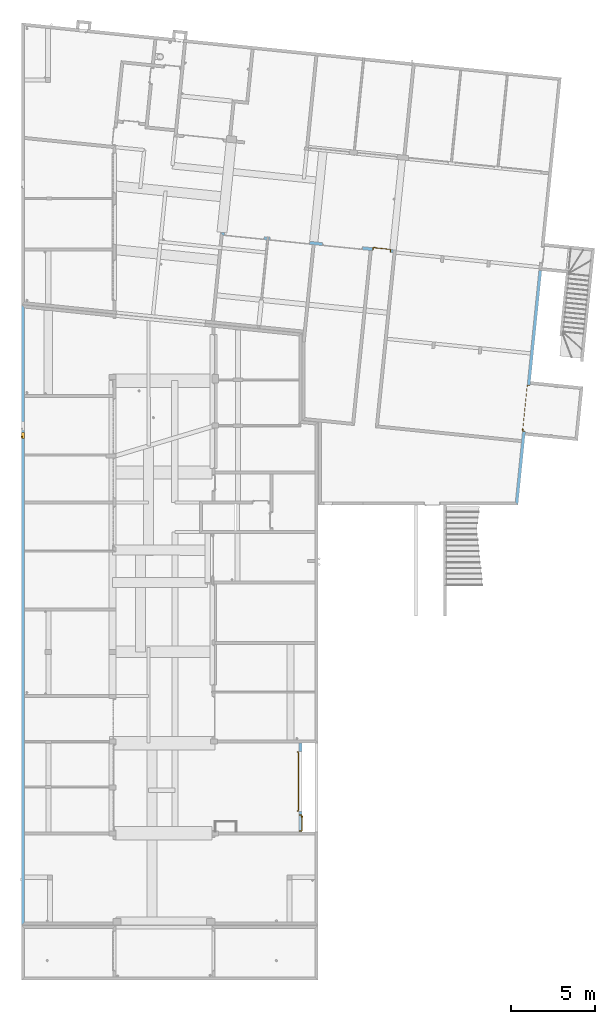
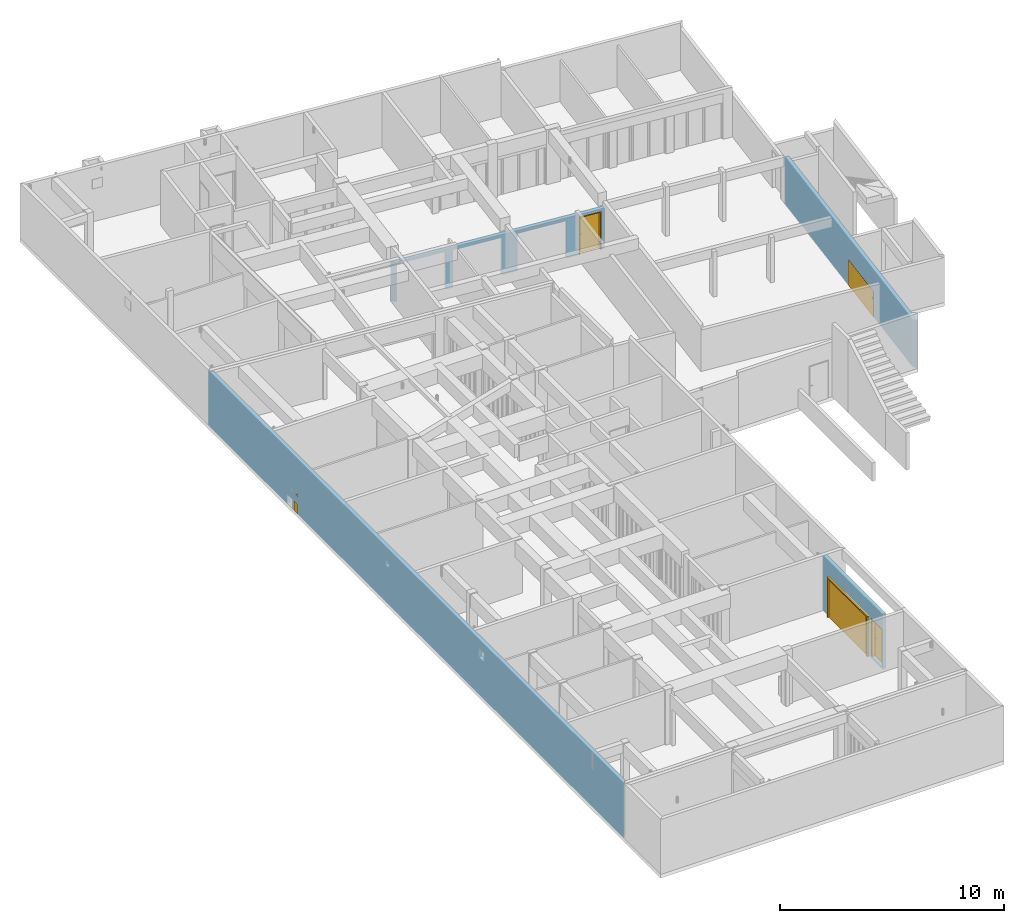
# One storey, part 33 of 41: 5 doors, 11 openings, plus 4 elements that do not belong to this part.
"""IFC2X3 building model written with IfcOpenShell, lengths in millimetres."""

from ifc_helpers import new_model, entity, si_unit, converted_unit, derived_unit, money_unit, direction, frame, origin_with_axes, origin_2d_with_axis, place, context, subcontext, project, spatial, polyline, rectangle, outline, extrude, faceted_brep, material, layer, layer_set, layer_usage, type_object, element, fill, save


model = new_model("IFC2X3")

# Units and contexts
model_context = context("Model", 3, precision=0.01, world=origin_with_axes(), true_north=direction((0.0, 1.0)))
body_context = subcontext(model_context, "Body", "Model", "MODEL_VIEW")
ifc_project = project(units=[si_unit("LENGTHUNIT", "METRE", prefix="MILLI"), si_unit("AREAUNIT", "SQUARE_METRE"), si_unit("VOLUMEUNIT", "CUBIC_METRE"), converted_unit("PLANEANGLEUNIT", "DEGREE", entity("IfcPlaneAngleMeasure", 0.0174532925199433), si_unit("PLANEANGLEUNIT", "RADIAN"), dimensions=[0, 0, 0, 0, 0, 0, 0]), money_unit("USD"), converted_unit("TIMEUNIT", "Year", entity("IfcTimeMeasure", 31557600.0), si_unit("TIMEUNIT", "SECOND"), dimensions=[0, 0, 1, 0, 0, 0, 0]), si_unit("MASSUNIT", "GRAM", prefix="KILO"), si_unit("THERMODYNAMICTEMPERATUREUNIT", "DEGREE_CELSIUS"), si_unit("LUMINOUSINTENSITYUNIT", "LUMEN"), si_unit("ENERGYUNIT", "JOULE", prefix="MEGA"), derived_unit("THERMALCONDUCTANCEUNIT", [(si_unit("POWERUNIT", "WATT"), 1), (si_unit("LENGTHUNIT", "METRE"), -1), (si_unit("THERMODYNAMICTEMPERATUREUNIT", "KELVIN"), -1)]), derived_unit("SPECIFICHEATCAPACITYUNIT", [(si_unit("ENERGYUNIT", "JOULE"), 1), (si_unit("MASSUNIT", "GRAM", prefix="KILO"), -1), (si_unit("THERMODYNAMICTEMPERATUREUNIT", "KELVIN"), -1)]), derived_unit("MASSDENSITYUNIT", [(si_unit("MASSUNIT", "GRAM", prefix="KILO"), 1), (si_unit("VOLUMEUNIT", "CUBIC_METRE"), -1)])], contexts=[model_context])

# Site, building, storey
site_placement = place(None, origin_with_axes())
site = spatial("IfcSite", under=ifc_project, at=site_placement, Name="Site", CompositionType="ELEMENT")
building_placement = place(site_placement, origin_with_axes())
building = spatial("IfcBuilding", under=site, at=building_placement, Name="Bâtiment", CompositionType="ELEMENT")
storey_placement = place(building_placement, origin_with_axes())
storey = spatial("IfcBuildingStorey", under=building, at=storey_placement, Name="sousol", CompositionType="ELEMENT", Elevation=0.0)

# Wall, openings, door
ifc_material = material(Name="Parpaing 314940890")
ifc_layer = layer(ifc_material, 180.0, ventilated="UNKNOWN")
ifc_layer_set = layer_set([ifc_layer], Name="Beton  18 0170347028")
ifc_layer_usage_1 = layer_usage(ifc_layer_set, "AXIS2", "POSITIVE", 0.0)
wall_type = type_object("IfcWallType", Name="Beton  18 0170347028 180", PredefinedType="NOTDEFINED")
wall_1_placement = place(storey_placement, frame((2216634.23334483, -620890.3900603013, 0.0), z_axis=(0.0, 0.0, 1.0), x_axis=(0.0, -1.0, 0.0)))
wall_1 = element("IfcWallStandardCase", 1, at=wall_1_placement, inside=storey, type_object=wall_type, material=ifc_layer_usage_1, Name="Mur-132", context=body_context, shape_type="SweptSolid", body=[
    extrude(outline(polyline([(-180.9270809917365, 0.0), (36927.93301666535, 0.0), (36747.93301666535, 179.99999999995), (18.29231084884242, 179.99999999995), (-180.9270809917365, 0.0)])), origin_with_axes(), (0.0, 0.0, 1.0), 3000.0),
])
opening_1_placement = place(wall_1_placement, frame((15766.22078603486, 2.273736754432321e-10, 2000.000000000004), z_axis=(0.0, 0.0, 1.0), x_axis=(1.0, 0.0, 0.0)))
element("IfcOpeningElement", 2, at=opening_1_placement, cuts=wall_1, Name="Por-277", context=body_context, shape_type="SweptSolid", body=[
    extrude(rectangle(XDim=300.0000000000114, YDim=299.9999999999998, at=origin_2d_with_axis()), frame((0.0, 0.0, 149.9999999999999), z_axis=(0.0, 1.0, 0.0), x_axis=(1.0, 0.0, 0.0)), (0.0, 0.0, -1.0), 180.0),
    extrude(rectangle(XDim=300.0000000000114, YDim=299.9999999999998, at=origin_2d_with_axis()), frame((0.0, 0.0, 149.9999999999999), z_axis=(0.0, -1.0, 0.0), x_axis=(1.0, 0.0, 0.0)), (0.0, 0.0, -1.0), 180.0),
])
opening_2_placement = place(wall_1_placement, frame((24180.17555855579, 3.410605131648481e-10, 2000.000000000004), z_axis=(0.0, 0.0, 1.0), x_axis=(1.0, 0.0, 0.0)))
element("IfcOpeningElement", 3, at=opening_2_placement, cuts=wall_1, Name="Por-277", context=body_context, shape_type="SweptSolid", body=[
    extrude(rectangle(XDim=500.0, YDim=500.0, at=origin_2d_with_axis()), frame((0.0, -1.13686837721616e-10, 250.0), z_axis=(0.0, 1.0, 0.0), x_axis=(1.0, 0.0, 0.0)), (0.0, 0.0, -1.0), 180.0),
    extrude(rectangle(XDim=500.0, YDim=500.0, at=origin_2d_with_axis()), frame((0.0, -1.13686837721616e-10, 250.0), z_axis=(0.0, -1.0, 0.0), x_axis=(1.0, 0.0, 0.0)), (0.0, 0.0, -1.0), 180.0),
])
opening_3_placement = place(wall_1_placement, frame((7070.907217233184, 2.273736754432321e-10, 0.0), z_axis=(0.0, 0.0, 1.0), x_axis=(1.0, 0.0, 0.0)))
element("IfcOpeningElement", 4, at=opening_3_placement, cuts=wall_1, Name="Por-277", context=body_context, shape_type="SweptSolid", body=[
    extrude(rectangle(XDim=519.999999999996, YDim=509.999998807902, at=origin_2d_with_axis()), frame((0.0, 179.99999999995, 255.000000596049), z_axis=(0.0, -1.0, 0.0), x_axis=(-1.0, 0.0, 0.0)), (0.0, 0.0, 1.0), 360.0),
])
opening_4_placement = place(wall_1_placement, frame((7631.771342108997, 2.273736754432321e-10, 0.0), z_axis=(0.0, 0.0, 1.0), x_axis=(1.0, 0.0, 0.0)))
opening_4 = element("IfcOpeningElement", 5, at=opening_4_placement, cuts=wall_1, Name="Por-277", context=body_context, shape_type="SweptSolid", body=[
    extrude(rectangle(XDim=343.3422810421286, YDim=510.0, at=origin_2d_with_axis()), frame((1.406561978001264e-06, 179.99999999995, 255.0), z_axis=(0.0, -1.0, 0.0), x_axis=(-1.0, 0.0, 0.0)), (0.0, 0.0, 1.0), 360.0),
])
door_style_1 = type_object("IfcDoorStyle", Name="Porte_1v", ConstructionType="NOTDEFINED", OperationType="NOTDEFINED", ParameterTakesPrecedence=False, Sizeable=False)
door_1_placement = place(opening_4_placement, frame((161.67114192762, 2.273736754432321e-10, 0.0), z_axis=(0.0, 0.0, 1.0), x_axis=(-1.0, 0.0, 0.0)))
door_1 = element("IfcDoor", 6, at=door_1_placement, inside=storey, type_object=door_style_1, Name="Por-277", OverallHeight=500.0, OverallWidth=323.342, context=body_context, shape_type="Brep", body=[
    faceted_brep([(333.3422838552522, 0.0, 0.0), (323.3422838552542, 0.0, 0.0), (323.3422838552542, 0.0, 500.0), (0.0, 0.0, 500.0), (0.0, 0.0, 0.0), (-9.99999999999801, 0.0, 0.0), (-9.99999999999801, 0.0, 510.0), (333.3422838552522, 0.0, 510.0), (333.3422838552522, -179.99999999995, 0.0), (313.3422838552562, -179.99999999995, 0.0), (313.3422838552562, -14.99999999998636, 0.0), (323.3422838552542, -14.99999999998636, 0.0), (323.3422838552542, -14.99999999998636, 500.0), (0.0, -14.99999999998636, 500.0), (0.0, -14.99999999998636, 0.0), (9.99999999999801, -14.99999999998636, 0.0), (9.99999999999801, -179.99999999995, 0.0), (-9.99999999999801, -179.99999999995, 0.0), (-9.99999999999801, -179.99999999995, 510.0), (333.3422838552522, -179.99999999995, 510.0), (9.99999999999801, -179.99999999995, 490.0), (313.3422838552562, -179.99999999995, 490.0), (313.3422838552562, -14.99999999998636, 490.0), (9.99999999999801, -14.99999999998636, 490.0)], [[[0, 1, 2, 3, 4, 5, 6, 7]], [[0, 8, 9, 10, 11, 1]], [[1, 11, 12, 2]], [[2, 12, 13, 3]], [[3, 13, 14, 4]], [[5, 4, 14, 15, 16, 17]], [[18, 6, 5, 17]], [[19, 7, 6, 18]], [[8, 0, 7, 19]], [[9, 8, 19, 18, 17, 16, 20, 21]], [[10, 9, 21, 22]], [[11, 10, 22, 23, 15, 14, 13, 12]], [[23, 20, 16, 15]], [[22, 21, 20, 23]]]),
    faceted_brep([(64.99999999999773, -14.99999999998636, 900.0), (24.99999999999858, -14.99999999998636, 900.0), (24.99999999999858, -14.99999999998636, 1100.0), (64.99999999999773, -14.99999999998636, 1100.0), (64.99999999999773, -24.99999999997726, 900.0), (24.99999999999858, -24.99999999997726, 900.0), (24.99999999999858, -24.99999999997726, 1100.0), (64.99999999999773, -24.99999999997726, 1100.0)], [[[0, 1, 2, 3]], [[1, 0, 4, 5]], [[2, 1, 5, 6]], [[3, 2, 6, 7]], [[0, 3, 7, 4]], [[5, 4, 7, 6]]]),
    faceted_brep([(134.999999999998, -24.99999999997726, 1000.0), (34.99999999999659, -24.99999999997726, 1000.0), (34.99999999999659, -24.99999999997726, 1020.0), (134.999999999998, -24.99999999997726, 1020.0), (134.999999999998, -44.99999999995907, 1000.0), (34.99999999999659, -44.99999999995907, 1000.0), (34.99999999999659, -44.99999999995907, 1020.0), (134.999999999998, -44.99999999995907, 1020.0)], [[[0, 1, 2, 3]], [[1, 0, 4, 5]], [[2, 1, 5, 6]], [[3, 2, 6, 7]], [[0, 3, 7, 4]], [[5, 4, 7, 6]]]),
    faceted_brep([(64.99999999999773, 14.99999999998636, 900.0), (24.99999999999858, 14.99999999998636, 900.0), (24.99999999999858, 14.99999999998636, 1100.0), (64.99999999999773, 14.99999999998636, 1100.0), (64.99999999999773, 4.999999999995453, 900.0), (24.99999999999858, 4.999999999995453, 900.0), (24.99999999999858, 4.999999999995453, 1100.0), (64.99999999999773, 4.999999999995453, 1100.0)], [[[0, 1, 2, 3]], [[1, 0, 4, 5]], [[2, 1, 5, 6]], [[3, 2, 6, 7]], [[0, 3, 7, 4]], [[5, 4, 7, 6]]]),
    faceted_brep([(134.999999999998, 34.99999999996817, 1000.0), (34.99999999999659, 34.99999999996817, 1000.0), (34.99999999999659, 34.99999999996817, 1020.0), (134.999999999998, 34.99999999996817, 1020.0), (134.999999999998, 14.99999999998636, 1000.0), (34.99999999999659, 14.99999999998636, 1000.0), (34.99999999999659, 14.99999999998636, 1020.0), (134.999999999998, 14.99999999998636, 1020.0)], [[[0, 1, 2, 3]], [[1, 0, 4, 5]], [[2, 1, 5, 6]], [[3, 2, 6, 7]], [[0, 3, 7, 4]], [[5, 4, 7, 6]]]),
    faceted_brep([(0.0, 4.999999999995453, 0.0), (323.3422838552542, 4.999999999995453, 0.0), (323.3422838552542, -14.99999999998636, 0.0), (0.0, -14.99999999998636, 0.0), (0.0, 4.999999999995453, 500.0), (323.3422838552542, 4.999999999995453, 500.0), (323.3422838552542, -14.99999999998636, 500.0), (0.0, -14.99999999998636, 500.0)], [[[0, 1, 2, 3]], [[0, 4, 5, 1]], [[1, 5, 6, 2]], [[3, 2, 6, 7]], [[4, 0, 3, 7]], [[5, 4, 7, 6]]]),
])
fill(opening_4, door_1)

ifc_layer_usage_2 = layer_usage(ifc_layer_set, "AXIS2", "POSITIVE", 0.0)
wall_2_placement = place(storey_placement, frame((2239044.524593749, -617438.4547941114, 0.0), z_axis=(0.0, 0.0, 1.0), x_axis=(-0.9948759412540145, 0.1011032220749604, 0.0)))
wall_2 = element("IfcWallStandardCase", 7, at=wall_2_placement, inside=storey, type_object=wall_type, material=ifc_layer_usage_2, Name="Mur-132", context=body_context, shape_type="SweptSolid", body=[
    extrude(outline(polyline([(179.9999999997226, 0.0), (10573.12216969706, 0.0), (10393.12216969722, 179.9999999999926), (179.9999999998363, 179.9999999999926), (179.9999999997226, 0.0)])), origin_with_axes(), (0.0, 0.0, 1.0), 2200.0),
])
opening_5_placement = place(wall_2_placement, frame((6397.227876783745, 0.0, 0.0), z_axis=(0.0, 0.0, 1.0), x_axis=(1.0, 0.0, 0.0)))
element("IfcOpeningElement", 8, at=opening_5_placement, cuts=wall_2, Name="Por-296", context=body_context, shape_type="SweptSolid", body=[
    extrude(rectangle(XDim=2400.000000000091, YDim=2050.0, at=origin_2d_with_axis()), frame((0.0, 180.0000000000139, 1025.0), z_axis=(0.0, -1.0, 0.0), x_axis=(1.0, 0.0, 0.0)), (0.0, 0.0, -1.0), 180.0),
    extrude(rectangle(XDim=2400.000000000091, YDim=2050.0, at=origin_2d_with_axis()), frame((0.0, 179.9999999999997, 1025.0), z_axis=(0.0, 1.0, 0.0), x_axis=(1.0, 0.0, 0.0)), (0.0, 0.0, -1.0), 180.0),
])
opening_6_placement = place(wall_2_placement, frame((9134.602929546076, 0.0, 0.0), z_axis=(0.0, 0.0, 1.0), x_axis=(1.0, 0.0, 0.0)))
element("IfcOpeningElement", 9, at=opening_6_placement, cuts=wall_2, Name="Por-296", context=body_context, shape_type="SweptSolid", body=[
    extrude(rectangle(XDim=2399.999999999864, YDim=2050.0, at=origin_2d_with_axis()), frame((1.13686837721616e-10, 180.0000000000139, 1025.0), z_axis=(0.0, -1.0, 0.0), x_axis=(1.0, 0.0, 0.0)), (0.0, 0.0, -1.0), 180.0),
    extrude(rectangle(XDim=2399.999999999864, YDim=2050.0, at=origin_2d_with_axis()), frame((1.13686837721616e-10, 179.9999999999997, 1025.0), z_axis=(0.0, 1.0, 0.0), x_axis=(1.0, 0.0, 0.0)), (0.0, 0.0, -1.0), 180.0),
])
opening_7_placement = place(wall_2_placement, frame((874.9999999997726, 0.0, 0.0), z_axis=(0.0, 0.0, 1.0), x_axis=(1.0, 0.0, 0.0)))
opening_7 = element("IfcOpeningElement", 10, at=opening_7_placement, cuts=wall_2, Name="Por-295", context=body_context, shape_type="SweptSolid", body=[
    extrude(rectangle(XDim=1109.999992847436, YDim=2080.0, at=origin_2d_with_axis()), frame((3.576360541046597e-06, 179.9999999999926, 1040.0), z_axis=(0.0, -1.0, 0.0), x_axis=(-1.0, 0.0, 0.0)), (0.0, 0.0, 1.0), 360.0),
])
opening_8_placement = place(wall_2_placement, frame((3226.390804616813, 0.0, 0.0), z_axis=(0.0, 0.0, 1.0), x_axis=(1.0, 0.0, 0.0)))
element("IfcOpeningElement", 11, at=opening_8_placement, cuts=wall_2, Name="Por-296", context=body_context, shape_type="SweptSolid", body=[
    extrude(rectangle(XDim=2399.999999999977, YDim=2050.0, at=origin_2d_with_axis()), frame((0.0, 179.9999999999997, 1025.0), z_axis=(0.0, -1.0, 0.0), x_axis=(1.0, 0.0, 0.0)), (0.0, 0.0, -1.0), 180.0),
    extrude(rectangle(XDim=2399.999999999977, YDim=2050.0, at=origin_2d_with_axis()), frame((0.0, 179.9999999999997, 1025.0), z_axis=(0.0, 1.0, 0.0), x_axis=(1.0, 0.0, 0.0)), (0.0, 0.0, -1.0), 180.0),
])
door_2_placement = place(opening_7_placement, frame((515.0000000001, 0.0, 0.0), z_axis=(0.0, 0.0, 1.0), x_axis=(-1.0, 0.0, 0.0)))
door_2 = element("IfcDoor", 12, at=door_2_placement, inside=storey, type_object=door_style_1, Name="Por-295", OverallHeight=2040.0, OverallWidth=1030.0, context=body_context, shape_type="Brep", body=[
    faceted_brep([(1070.00000000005, 0.0, 0.0), (1029.999999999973, 0.0, 0.0), (1029.999999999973, 0.0, 2040.0), (0.0, 0.0, 2040.0), (0.0, 0.0, 0.0), (-40.00000000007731, 0.0, 0.0), (-40.00000000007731, 0.0, 2080.0), (1070.00000000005, 0.0, 2080.0), (1070.00000000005, -180.0000000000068, 0.0), (1014.999999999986, -179.9999999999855, 0.0), (1014.999999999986, -14.99999999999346, 0.0), (1029.999999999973, -15.00000000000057, 0.0), (1029.999999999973, -15.00000000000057, 2040.0), (0.0, -14.99999999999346, 2040.0), (0.0, -14.99999999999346, 0.0), (14.99999999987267, -15.00000000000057, 0.0), (14.99999999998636, -179.9999999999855, 0.0), (-39.99999999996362, -179.9999999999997, 0.0), (-39.99999999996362, -179.9999999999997, 2080.0), (1070.00000000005, -180.0000000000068, 2080.0), (14.99999999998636, -179.9999999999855, 2025.0), (1014.999999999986, -179.9999999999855, 2025.0), (1014.999999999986, -14.99999999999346, 2025.0), (14.99999999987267, -15.00000000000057, 2025.0)], [[[0, 1, 2, 3, 4, 5, 6, 7]], [[0, 8, 9, 10, 11, 1]], [[1, 11, 12, 2]], [[2, 12, 13, 3]], [[3, 13, 14, 4]], [[5, 4, 14, 15, 16, 17]], [[18, 6, 5, 17]], [[19, 7, 6, 18]], [[8, 0, 7, 19]], [[9, 8, 19, 18, 17, 16, 20, 21]], [[10, 9, 21, 22]], [[11, 10, 22, 23, 15, 14, 13, 12]], [[23, 20, 16, 15]], [[22, 21, 20, 23]]]),
    faceted_brep([(65.00000000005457, -14.99999999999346, 900.0), (24.99999999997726, -15.00000000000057, 900.0), (24.99999999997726, -15.00000000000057, 1100.0), (65.00000000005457, -14.99999999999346, 1100.0), (64.99999999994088, -24.99999999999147, 900.0), (24.99999999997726, -24.99999999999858, 900.0), (24.99999999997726, -24.99999999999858, 1100.0), (64.99999999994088, -24.99999999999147, 1100.0)], [[[0, 1, 2, 3]], [[1, 0, 4, 5]], [[2, 1, 5, 6]], [[3, 2, 6, 7]], [[0, 3, 7, 4]], [[5, 4, 7, 6]]]),
    faceted_brep([(134.9999999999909, -25.00000000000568, 1000.0), (34.99999999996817, -24.99999999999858, 1000.0), (34.99999999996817, -24.99999999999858, 1020.0), (134.9999999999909, -25.00000000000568, 1020.0), (134.9999999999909, -44.99999999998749, 1000.0), (34.99999999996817, -44.9999999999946, 1000.0), (34.99999999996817, -44.9999999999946, 1020.0), (134.9999999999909, -44.99999999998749, 1020.0)], [[[0, 1, 2, 3]], [[1, 0, 4, 5]], [[2, 1, 5, 6]], [[3, 2, 6, 7]], [[0, 3, 7, 4]], [[5, 4, 7, 6]]]),
    faceted_brep([(64.99999999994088, 34.99999999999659, 900.0), (24.99999999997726, 35.00000000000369, 900.0), (24.99999999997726, 35.00000000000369, 1100.0), (64.99999999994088, 34.99999999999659, 1100.0), (64.99999999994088, 24.99999999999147, 900.0), (24.99999999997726, 25.00000000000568, 900.0), (24.99999999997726, 25.00000000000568, 1100.0), (64.99999999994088, 24.99999999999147, 1100.0)], [[[0, 1, 2, 3]], [[1, 0, 4, 5]], [[2, 1, 5, 6]], [[3, 2, 6, 7]], [[0, 3, 7, 4]], [[5, 4, 7, 6]]]),
    faceted_brep([(135.0000000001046, 55.00000000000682, 1000.0), (34.99999999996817, 55.00000000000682, 1000.0), (34.99999999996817, 55.00000000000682, 1020.0), (135.0000000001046, 55.00000000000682, 1020.0), (134.9999999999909, 35.00000000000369, 1000.0), (35.00000000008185, 35.00000000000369, 1000.0), (35.00000000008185, 35.00000000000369, 1020.0), (134.9999999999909, 35.00000000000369, 1020.0)], [[[0, 1, 2, 3]], [[1, 0, 4, 5]], [[2, 1, 5, 6]], [[3, 2, 6, 7]], [[0, 3, 7, 4]], [[5, 4, 7, 6]]]),
    faceted_brep([(-1.13686837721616e-10, 24.99999999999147, 0.0), (1029.999999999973, 24.99999999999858, 0.0), (1029.999999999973, -15.00000000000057, 0.0), (0.0, -14.99999999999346, 0.0), (-1.13686837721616e-10, 24.99999999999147, 2040.0), (1029.999999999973, 24.99999999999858, 2040.0), (1029.999999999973, -15.00000000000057, 2040.0), (0.0, -14.99999999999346, 2040.0)], [[[0, 1, 2, 3]], [[0, 4, 5, 1]], [[1, 5, 6, 2]], [[3, 2, 6, 7]], [[4, 0, 3, 7]], [[5, 4, 7, 6]]]),
])
fill(opening_7, door_2)

# Wall, opening, door
ifc_layer_usage_3 = layer_usage(ifc_layer_set, "AXIS2", "NEGATIVE", 0.0)
wall_3_placement = place(storey_placement, frame((2246141.830082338, -632689.6647523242, 0.0), z_axis=(0.0, 0.0, 1.0), x_axis=(0.1011032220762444, 0.994875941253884, 0.0)))
wall_3 = element("IfcWallStandardCase", 13, at=wall_3_placement, inside=storey, type_object=wall_type, material=ifc_layer_usage_3, Name="Mur-132", context=body_context, shape_type="SweptSolid", body=[
    extrude(outline(polyline([(18.29231084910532, -179.99999999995), (14105.94477791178, -179.99999999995), (14105.90530118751, 1.13686837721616e-10), (180.9270809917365, 0.0), (18.29231084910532, -179.99999999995)])), origin_with_axes(), (0.0, 0.0, 1.0), 2586.039272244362),
])
opening_9_placement = place(wall_3_placement, frame((5828.841814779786, 3.410605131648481e-10, 0.0), z_axis=(0.0, 0.0, 1.0), x_axis=(1.0, 0.0, 0.0)))
opening_9 = element("IfcOpeningElement", 14, at=opening_9_placement, cuts=wall_3, Name="Por-275", context=body_context, shape_type="SweptSolid", body=[
    extrude(rectangle(XDim=2793.345247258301, YDim=1410.000003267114, at=origin_2d_with_axis()), frame((0.0, -180.0000000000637, 704.9999983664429), z_axis=(0.0, 1.0, 0.0), x_axis=(1.0, 0.0, 0.0)), (0.0, 0.0, 1.0), 360.0),
])
door_3_placement = place(opening_9_placement, frame((-1386.672623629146, 1.13686837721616e-10, 0.0), z_axis=(0.0, 0.0, 1.0), x_axis=(1.0, 0.0, 0.0)))
door_3 = element("IfcDoor", 15, at=door_3_placement, inside=storey, type_object=door_style_1, Name="Por-275", OverallHeight=1400.0, OverallWidth=2773.34, context=body_context, shape_type="Brep", body=[
    faceted_brep([(2783.345247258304, 0.0, 0.0), (2773.345247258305, -1.13686837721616e-10, 0.0), (2773.345247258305, -1.13686837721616e-10, 1400.0), (0.0, 0.0, 1400.0), (0.0, 0.0, 0.0), (-10.00000000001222, 0.0, 0.0), (-10.00000000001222, 0.0, 1410.0), (2783.345247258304, 0.0, 1410.0), (2783.345247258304, -180.0000000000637, 0.0), (2763.345247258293, -180.0000000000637, 0.0), (2763.3452472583, -15.00000000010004, 0.0), (2773.345247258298, -14.99999999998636, 0.0), (2773.345247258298, -14.99999999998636, 1400.0), (0.0, -14.99999999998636, 1400.0), (0.0, -14.99999999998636, 0.0), (9.999999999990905, -14.99999999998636, 0.0), (9.9999999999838, -179.99999999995, 0.0), (-10.00000000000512, -180.0000000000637, 0.0), (-10.00000000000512, -180.0000000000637, 1410.0), (2783.345247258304, -180.0000000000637, 1410.0), (9.9999999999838, -179.99999999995, 1390.0), (2763.345247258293, -180.0000000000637, 1390.0), (2763.3452472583, -15.00000000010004, 1390.0), (9.999999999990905, -14.99999999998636, 1390.0)], [[[0, 1, 2, 3, 4, 5, 6, 7]], [[0, 8, 9, 10, 11, 1]], [[1, 11, 12, 2]], [[2, 12, 13, 3]], [[3, 13, 14, 4]], [[5, 4, 14, 15, 16, 17]], [[18, 6, 5, 17]], [[19, 7, 6, 18]], [[8, 0, 7, 19]], [[9, 8, 19, 18, 17, 16, 20, 21]], [[10, 9, 21, 22]], [[11, 10, 22, 23, 15, 14, 13, 12]], [[23, 20, 16, 15]], [[22, 21, 20, 23]]]),
    faceted_brep([(64.99999999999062, -14.99999999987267, 900.0), (24.99999999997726, -14.99999999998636, 900.0), (24.99999999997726, -14.99999999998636, 1100.0), (64.99999999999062, -14.99999999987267, 1100.0), (64.99999999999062, -25.00000000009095, 900.0), (24.99999999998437, -24.99999999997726, 900.0), (24.99999999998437, -24.99999999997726, 1100.0), (64.99999999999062, -25.00000000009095, 1100.0)], [[[0, 1, 2, 3]], [[1, 0, 4, 5]], [[2, 1, 5, 6]], [[3, 2, 6, 7]], [[0, 3, 7, 4]], [[5, 4, 7, 6]]]),
    faceted_brep([(134.9999999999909, -25.00000000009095, 1000.0), (34.99999999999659, -25.00000000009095, 1000.0), (34.99999999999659, -25.00000000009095, 1020.0), (134.9999999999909, -25.00000000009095, 1020.0), (134.9999999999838, -45.00000000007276, 1000.0), (34.99999999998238, -45.00000000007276, 1000.0), (34.99999999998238, -45.00000000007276, 1020.0), (134.9999999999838, -45.00000000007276, 1020.0)], [[[0, 1, 2, 3]], [[1, 0, 4, 5]], [[2, 1, 5, 6]], [[3, 2, 6, 7]], [[0, 3, 7, 4]], [[5, 4, 7, 6]]]),
    faceted_brep([(64.99999999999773, 14.99999999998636, 900.0), (24.99999999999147, 15.00000000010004, 900.0), (24.99999999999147, 15.00000000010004, 1100.0), (64.99999999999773, 14.99999999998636, 1100.0), (64.99999999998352, 4.999999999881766, 900.0), (24.99999999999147, 4.999999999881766, 900.0), (24.99999999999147, 4.999999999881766, 1100.0), (64.99999999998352, 4.999999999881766, 1100.0)], [[[0, 1, 2, 3]], [[1, 0, 4, 5]], [[2, 1, 5, 6]], [[3, 2, 6, 7]], [[0, 3, 7, 4]], [[5, 4, 7, 6]]]),
    faceted_brep([(134.9999999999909, 34.99999999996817, 1000.0), (34.99999999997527, 35.00000000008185, 1000.0), (34.99999999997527, 35.00000000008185, 1020.0), (134.9999999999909, 34.99999999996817, 1020.0), (134.9999999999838, 15.00000000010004, 1000.0), (34.99999999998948, 14.99999999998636, 1000.0), (34.99999999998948, 14.99999999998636, 1020.0), (134.9999999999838, 15.00000000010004, 1020.0)], [[[0, 1, 2, 3]], [[1, 0, 4, 5]], [[2, 1, 5, 6]], [[3, 2, 6, 7]], [[0, 3, 7, 4]], [[5, 4, 7, 6]]]),
    faceted_brep([(0.0, 4.999999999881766, 0.0), (2773.345247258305, 4.999999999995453, 0.0), (2773.345247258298, -14.99999999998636, 0.0), (0.0, -14.99999999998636, 0.0), (0.0, 4.999999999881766, 1400.0), (2773.345247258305, 4.999999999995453, 1400.0), (2773.345247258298, -14.99999999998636, 1400.0), (0.0, -14.99999999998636, 1400.0)], [[[0, 1, 2, 3]], [[0, 4, 5, 1]], [[1, 5, 6, 2]], [[3, 2, 6, 7]], [[4, 0, 3, 7]], [[5, 4, 7, 6]]]),
])
fill(opening_9, door_3)

# Wall, openings, doors
ifc_layer_usage_4 = layer_usage(ifc_layer_set, "AXIS2", "NEGATIVE", 0.0)
wall_4_placement = place(storey_placement, frame((2233394.233344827, -646918.7617118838, 0.0), z_axis=(0.0, 0.0, 1.0), x_axis=(0.0, -1.0, 0.0)))
wall_4 = element("IfcWallStandardCase", 16, at=wall_4_placement, inside=storey, type_object=wall_type, material=ifc_layer_usage_4, Name="Mur-132", context=body_context, shape_type="SweptSolid", body=[
    extrude(outline(polyline([(4.732214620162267e-09, -179.99999999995), (5313.920350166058, -179.99999999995), (5313.920350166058, 0.0), (0.0, 0.0), (4.732214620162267e-09, -179.99999999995)])), origin_with_axes(), (0.0, 0.0, 1.0), 3000.0),
])
opening_10_placement = place(wall_4_placement, frame((2306.943442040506, -2.273736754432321e-10, 0.0), z_axis=(0.0, 0.0, 1.0), x_axis=(1.0, 0.0, 0.0)))
opening_10 = element("IfcOpeningElement", 17, at=opening_10_placement, cuts=wall_4, Name="Por-238", context=body_context, shape_type="SweptSolid", body=[
    extrude(rectangle(XDim=3600.000000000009, YDim=2200.0, at=origin_2d_with_axis()), frame((0.0, -199.9999999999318, 1100.0), z_axis=(0.0, -1.0, 0.0), x_axis=(1.0, 0.0, 0.0)), (0.0, 0.0, -1.0), 380.0),
    extrude(rectangle(XDim=3600.000000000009, YDim=2200.0, at=origin_2d_with_axis()), frame((0.0, -199.9999999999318, 1100.0), z_axis=(0.0, 1.0, 0.0), x_axis=(1.0, 0.0, 0.0)), (0.0, 0.0, -1.0), 380.0),
])
opening_11_placement = place(wall_4_placement, frame((4796.844061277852, -2.273736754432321e-10, 110.0000000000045), z_axis=(0.0, 0.0, 1.0), x_axis=(1.0, 0.0, 0.0)))
opening_11 = element("IfcOpeningElement", 18, at=opening_11_placement, cuts=wall_4, Name="Por-238", context=body_context, shape_type="SweptSolid", body=[
    extrude(rectangle(XDim=1009.999986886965, YDim=2090.0, at=origin_2d_with_axis()), frame((-6.556518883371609e-06, -179.99999999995, 1045.0), z_axis=(0.0, 1.0, 0.0), x_axis=(1.0, 0.0, 0.0)), (0.0, 0.0, 1.0), 360.0),
])
door_4_placement = place(opening_11_placement, frame((-465.0000000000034, -2.273736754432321e-10, 0.0), z_axis=(0.0, 0.0, 1.0), x_axis=(1.0, 0.0, 0.0)))
door_4 = element("IfcDoor", 19, at=door_4_placement, inside=storey, type_object=door_style_1, Name="Por-238", OverallHeight=2050.0, OverallWidth=930.0, context=body_context, shape_type="Brep", body=[
    faceted_brep([(969.9999999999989, 0.0, 0.0), (930.0000000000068, 0.0, 0.0), (930.0000000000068, 0.0, 2050.0), (0.0, 0.0, 2050.0), (0.0, 0.0, 0.0), (-39.99999999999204, 0.0, 0.0), (-39.99999999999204, 0.0, 2090.0), (969.9999999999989, 0.0, 2090.0), (969.9999999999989, -179.99999999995, 0.0), (915.0000000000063, -179.99999999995, 0.0), (915.0000000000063, -14.99999999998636, 0.0), (930.0000000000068, -14.99999999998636, 0.0), (930.0000000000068, -14.99999999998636, 2050.0), (0.0, -14.99999999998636, 2050.0), (0.0, -14.99999999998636, 0.0), (15.00000000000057, -14.99999999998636, 0.0), (15.00000000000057, -179.99999999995, 0.0), (-39.99999999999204, -179.99999999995, 0.0), (-39.99999999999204, -179.99999999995, 2090.0), (969.9999999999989, -179.99999999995, 2090.0), (15.00000000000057, -179.99999999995, 2035.0), (915.0000000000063, -179.99999999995, 2035.0), (915.0000000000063, -14.99999999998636, 2035.0), (15.00000000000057, -14.99999999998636, 2035.0)], [[[0, 1, 2, 3, 4, 5, 6, 7]], [[0, 8, 9, 10, 11, 1]], [[1, 11, 12, 2]], [[2, 12, 13, 3]], [[3, 13, 14, 4]], [[5, 4, 14, 15, 16, 17]], [[18, 6, 5, 17]], [[19, 7, 6, 18]], [[8, 0, 7, 19]], [[9, 8, 19, 18, 17, 16, 20, 21]], [[10, 9, 21, 22]], [[11, 10, 22, 23, 15, 14, 13, 12]], [[23, 20, 16, 15]], [[22, 21, 20, 23]]]),
    faceted_brep([(64.99999999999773, -14.99999999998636, 899.9999999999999), (25.00000000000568, -14.99999999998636, 899.9999999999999), (25.00000000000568, -14.99999999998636, 1100.0), (64.99999999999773, -14.99999999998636, 1100.0), (64.99999999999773, -24.99999999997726, 899.9999999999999), (25.00000000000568, -24.99999999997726, 899.9999999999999), (25.00000000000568, -24.99999999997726, 1100.0), (64.99999999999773, -24.99999999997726, 1100.0)], [[[0, 1, 2, 3]], [[1, 0, 4, 5]], [[2, 1, 5, 6]], [[3, 2, 6, 7]], [[0, 3, 7, 4]], [[5, 4, 7, 6]]]),
    faceted_brep([(135.0000000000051, -24.99999999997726, 1000.0), (34.99999999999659, -24.99999999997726, 1000.0), (34.99999999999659, -24.99999999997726, 1020.0), (135.0000000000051, -24.99999999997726, 1020.0), (135.0000000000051, -44.99999999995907, 1000.0), (34.99999999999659, -44.99999999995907, 1000.0), (34.99999999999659, -44.99999999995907, 1020.0), (135.0000000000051, -44.99999999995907, 1020.0)], [[[0, 1, 2, 3]], [[1, 0, 4, 5]], [[2, 1, 5, 6]], [[3, 2, 6, 7]], [[0, 3, 7, 4]], [[5, 4, 7, 6]]]),
    faceted_brep([(64.99999999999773, 34.99999999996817, 899.9999999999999), (25.00000000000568, 34.99999999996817, 899.9999999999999), (25.00000000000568, 34.99999999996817, 1100.0), (64.99999999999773, 34.99999999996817, 1100.0), (64.99999999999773, 24.99999999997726, 899.9999999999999), (25.00000000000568, 24.99999999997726, 899.9999999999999), (25.00000000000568, 24.99999999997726, 1100.0), (64.99999999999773, 24.99999999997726, 1100.0)], [[[0, 1, 2, 3]], [[1, 0, 4, 5]], [[2, 1, 5, 6]], [[3, 2, 6, 7]], [[0, 3, 7, 4]], [[5, 4, 7, 6]]]),
    faceted_brep([(135.0000000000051, 54.99999999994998, 1000.0), (34.99999999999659, 54.99999999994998, 1000.0), (34.99999999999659, 54.99999999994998, 1020.0), (135.0000000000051, 54.99999999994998, 1020.0), (135.0000000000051, 34.99999999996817, 1000.0), (34.99999999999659, 34.99999999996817, 1000.0), (34.99999999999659, 34.99999999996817, 1020.0), (135.0000000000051, 34.99999999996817, 1020.0)], [[[0, 1, 2, 3]], [[1, 0, 4, 5]], [[2, 1, 5, 6]], [[3, 2, 6, 7]], [[0, 3, 7, 4]], [[5, 4, 7, 6]]]),
    faceted_brep([(0.0, 24.99999999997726, 0.0), (930.0000000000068, 24.99999999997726, 0.0), (930.0000000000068, -14.99999999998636, 0.0), (0.0, -14.99999999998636, 0.0), (0.0, 24.99999999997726, 2050.0), (930.0000000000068, 24.99999999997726, 2050.0), (930.0000000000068, -14.99999999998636, 2050.0), (0.0, -14.99999999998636, 2050.0)], [[[0, 1, 2, 3]], [[0, 4, 5, 1]], [[1, 5, 6, 2]], [[3, 2, 6, 7]], [[4, 0, 3, 7]], [[5, 4, 7, 6]]]),
])
fill(opening_11, door_4)
door_style_2 = type_object("IfcDoorStyle", ConstructionType="NOTDEFINED", OperationType="NOTDEFINED", ParameterTakesPrecedence=False, Sizeable=False)
door_5_placement = place(opening_10_placement, frame((1799.999999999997, -2.273736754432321e-10, 0.0), z_axis=(0.0, 0.0, 1.0), x_axis=(-1.0, 0.0, 0.0)))
door_5 = element("IfcDoor", 20, at=door_5_placement, inside=storey, type_object=door_style_2, Name="Por-238", OverallHeight=2200.0, OverallWidth=3600.0, context=body_context, shape_type="Brep", body=[
    faceted_brep([(75.9999999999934, 199.9999999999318, 0.0), (75.9999999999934, 288.9999999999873, 0.0), (75.9999999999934, 288.9999999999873, 2124.0), (75.9999999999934, 199.9999999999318, 2124.0), (0.0, 199.9999999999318, 0.0), (0.0, 288.9999999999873, 0.0), (0.0, 288.9999999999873, 2200.0), (3599.999999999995, 288.9999999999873, 2200.0), (3599.999999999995, 288.9999999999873, 0.0), (3524.000000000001, 288.9999999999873, 0.0), (3524.000000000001, 288.9999999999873, 2124.0), (3524.000000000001, 199.9999999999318, 2124.0), (3524.000000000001, 199.9999999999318, 0.0), (3599.999999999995, 199.9999999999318, 0.0), (3599.999999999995, 199.9999999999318, 2200.0), (0.0, 199.9999999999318, 2200.0)], [[[0, 1, 2, 3]], [[4, 5, 1, 0]], [[1, 5, 6, 7, 8, 9, 10, 2]], [[3, 2, 10, 11]], [[0, 3, 11, 12, 13, 14, 15, 4]], [[15, 6, 5, 4]], [[14, 7, 6, 15]], [[13, 8, 7, 14]], [[12, 9, 8, 13]], [[11, 10, 9, 12]]]),
    faceted_brep([(75.9999999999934, 222.5777777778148, 0.0), (75.9999999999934, 222.5777777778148, 2124.0), (3524.000000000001, 222.5777777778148, 2124.0), (3524.000000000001, 222.5777777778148, 0.0), (75.9999999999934, 171.7777777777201, 0.0), (75.9999999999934, 171.7777777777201, 2124.0), (3524.000000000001, 171.7777777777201, 2124.0), (3524.000000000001, 171.7777777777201, 0.0)], [[[0, 1, 2, 3]], [[0, 4, 5, 1]], [[1, 5, 6, 2]], [[2, 6, 7, 3]], [[3, 7, 4, 0]], [[7, 6, 5, 4]]]),
])
fill(opening_10, door_5)

save(model, "model.ifc")
